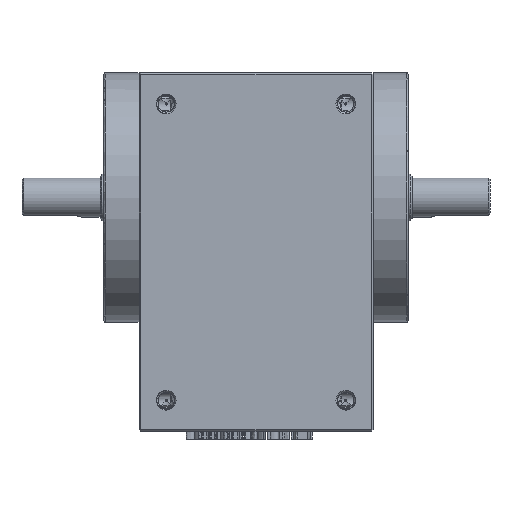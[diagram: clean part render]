
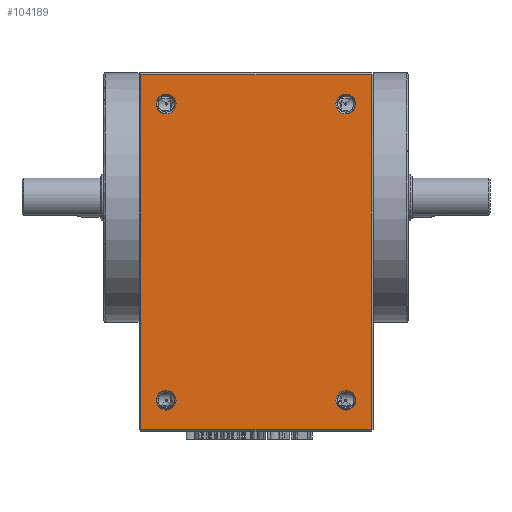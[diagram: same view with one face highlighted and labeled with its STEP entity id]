
A CAD part, front view. The second image highlights one B-rep face of the part: STEP entity #104189.
In plain terms, the highlighted planar face has unit normal (0, -1, 0).
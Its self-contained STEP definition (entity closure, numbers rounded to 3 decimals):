
#49 = DIRECTION ( 'NONE',  ( 0., -1., 0. ) ) ;
#691 = FACE_OUTER_BOUND ( 'NONE', #49533, .T. ) ;
#1646 = ORIENTED_EDGE ( 'NONE', *, *, #118115, .F. ) ;
#2790 = DIRECTION ( 'NONE',  ( 0., 0., -1. ) ) ;
#5188 = CARTESIAN_POINT ( 'NONE',  ( 23., 0., -22.525 ) ) ;
#6712 = ORIENTED_EDGE ( 'NONE', *, *, #46490, .F. ) ;
#8296 = LINE ( 'NONE', #104100, #70346 ) ;
#8600 = VERTEX_POINT ( 'NONE', #77765 ) ;
#9452 = VERTEX_POINT ( 'NONE', #5188 ) ;
#12114 = EDGE_LOOP ( 'NONE', ( #116525, #132566 ) ) ;
#12276 = CIRCLE ( 'NONE', #123251, 2.525 ) ;
#12492 = CARTESIAN_POINT ( 'NONE',  ( 23., 0., 53.475 ) ) ;
#14024 = CARTESIAN_POINT ( 'NONE',  ( -29.5, 0., 0. ) ) ;
#15746 = CARTESIAN_POINT ( 'NONE',  ( -23., 0., -20. ) ) ;
#17257 = CIRCLE ( 'NONE', #45830, 2.525 ) ;
#18082 = ORIENTED_EDGE ( 'NONE', *, *, #93464, .F. ) ;
#18822 = ORIENTED_EDGE ( 'NONE', *, *, #21091, .F. ) ;
#20648 = CARTESIAN_POINT ( 'NONE',  ( 23., 0., 56. ) ) ;
#21091 = EDGE_CURVE ( 'NONE', #68149, #103298, #17257, .T. ) ;
#21558 = AXIS2_PLACEMENT_3D ( 'NONE', #46948, #123951, #58065 ) ;
#22433 = CARTESIAN_POINT ( 'NONE',  ( 0., 0., 63.5 ) ) ;
#23027 = FACE_BOUND ( 'NONE', #77798, .T. ) ;
#25942 = DIRECTION ( 'NONE',  ( 0., 1., 0. ) ) ;
#26152 = EDGE_CURVE ( 'NONE', #56366, #9452, #99384, .T. ) ;
#26801 = DIRECTION ( 'NONE',  ( 0., 0., -1. ) ) ;
#30626 = CIRCLE ( 'NONE', #36746, 2.525 ) ;
#31736 = DIRECTION ( 'NONE',  ( 0., 0., -1. ) ) ;
#33109 = ORIENTED_EDGE ( 'NONE', *, *, #26152, .F. ) ;
#33437 = EDGE_CURVE ( 'NONE', #8600, #139664, #8296, .T. ) ;
#33518 = DIRECTION ( 'NONE',  ( 1., 0., 0. ) ) ;
#34865 = CARTESIAN_POINT ( 'NONE',  ( -23., 0., -22.525 ) ) ;
#35505 = DIRECTION ( 'NONE',  ( 0., -1., 0. ) ) ;
#36746 = AXIS2_PLACEMENT_3D ( 'NONE', #134622, #68769, #2790 ) ;
#38563 = CARTESIAN_POINT ( 'NONE',  ( 23., 0., 56. ) ) ;
#39892 = EDGE_LOOP ( 'NONE', ( #33109, #18082 ) ) ;
#40105 = CIRCLE ( 'NONE', #64486, 2.525 ) ;
#41428 = EDGE_CURVE ( 'NONE', #130122, #8600, #118017, .T. ) ;
#42284 = CARTESIAN_POINT ( 'NONE',  ( -29.5, 0., -27.5 ) ) ;
#42596 = ORIENTED_EDGE ( 'NONE', *, *, #41428, .F. ) ;
#43457 = EDGE_LOOP ( 'NONE', ( #6712, #62903 ) ) ;
#45157 = CIRCLE ( 'NONE', #21558, 2.525 ) ;
#45830 = AXIS2_PLACEMENT_3D ( 'NONE', #15746, #92776, #26801 ) ;
#46490 = EDGE_CURVE ( 'NONE', #119065, #61097, #45157, .T. ) ;
#46948 = CARTESIAN_POINT ( 'NONE',  ( -23., 0., 56. ) ) ;
#47337 = AXIS2_PLACEMENT_3D ( 'NONE', #66034, #49, #77117 ) ;
#49195 = DIRECTION ( 'NONE',  ( -1., 0., 0. ) ) ;
#49533 = EDGE_LOOP ( 'NONE', ( #86393, #1646, #90428, #42596 ) ) ;
#49569 = EDGE_CURVE ( 'NONE', #140506, #140013, #12276, .T. ) ;
#49642 = DIRECTION ( 'NONE',  ( 0., 0., -1. ) ) ;
#54326 = AXIS2_PLACEMENT_3D ( 'NONE', #101419, #35505, #112508 ) ;
#54664 = VERTEX_POINT ( 'NONE', #42284 ) ;
#56366 = VERTEX_POINT ( 'NONE', #77571 ) ;
#58065 = DIRECTION ( 'NONE',  ( 0., 0., -1. ) ) ;
#59354 = CARTESIAN_POINT ( 'NONE',  ( 23., 0., 58.525 ) ) ;
#59441 = VECTOR ( 'NONE', #33518, 1000. ) ;
#61097 = VERTEX_POINT ( 'NONE', #74497 ) ;
#62632 = CARTESIAN_POINT ( 'NONE',  ( 23., 0., -20. ) ) ;
#62903 = ORIENTED_EDGE ( 'NONE', *, *, #65510, .F. ) ;
#64486 = AXIS2_PLACEMENT_3D ( 'NONE', #38563, #115586, #49642 ) ;
#65510 = EDGE_CURVE ( 'NONE', #61097, #119065, #114544, .T. ) ;
#65834 = EDGE_CURVE ( 'NONE', #54664, #130122, #133424, .T. ) ;
#66034 = CARTESIAN_POINT ( 'NONE',  ( -23., 0., 56. ) ) ;
#68149 = VERTEX_POINT ( 'NONE', #34865 ) ;
#68769 = DIRECTION ( 'NONE',  ( 0., -1., 0. ) ) ;
#70346 = VECTOR ( 'NONE', #82537, 1000. ) ;
#71347 = VECTOR ( 'NONE', #49195, 1000. ) ;
#73549 = CARTESIAN_POINT ( 'NONE',  ( -29.5, 0., 63.5 ) ) ;
#73693 = DIRECTION ( 'NONE',  ( 0., 0., -1. ) ) ;
#74497 = CARTESIAN_POINT ( 'NONE',  ( -23., 0., 53.475 ) ) ;
#77117 = DIRECTION ( 'NONE',  ( 0., 0., -1. ) ) ;
#77571 = CARTESIAN_POINT ( 'NONE',  ( 23., 0., -17.475 ) ) ;
#77765 = CARTESIAN_POINT ( 'NONE',  ( 29.5, 0., 63.5 ) ) ;
#77798 = EDGE_LOOP ( 'NONE', ( #118152, #18822 ) ) ;
#82537 = DIRECTION ( 'NONE',  ( 0., 0., -1. ) ) ;
#85154 = FACE_BOUND ( 'NONE', #39892, .T. ) ;
#86393 = ORIENTED_EDGE ( 'NONE', *, *, #65834, .F. ) ;
#89384 = CARTESIAN_POINT ( 'NONE',  ( 29.5, 0., -27.5 ) ) ;
#90428 = ORIENTED_EDGE ( 'NONE', *, *, #33437, .F. ) ;
#90593 = DIRECTION ( 'NONE',  ( 0., 0., 1. ) ) ;
#91923 = CARTESIAN_POINT ( 'NONE',  ( 0., 0., 0. ) ) ;
#92776 = DIRECTION ( 'NONE',  ( 0., -1., 0. ) ) ;
#93464 = EDGE_CURVE ( 'NONE', #9452, #56366, #30626, .T. ) ;
#97680 = DIRECTION ( 'NONE',  ( 0., -1., 0. ) ) ;
#99384 = CIRCLE ( 'NONE', #112448, 2.525 ) ;
#101419 = CARTESIAN_POINT ( 'NONE',  ( -23., 0., -20. ) ) ;
#102926 = DIRECTION ( 'NONE',  ( 0., 0., 1. ) ) ;
#103298 = VERTEX_POINT ( 'NONE', #132015 ) ;
#104100 = CARTESIAN_POINT ( 'NONE',  ( 29.5, 0., 0. ) ) ;
#104189 = ADVANCED_FACE ( 'NONE', ( #691, #85154, #140194, #23027, #136713 ), #135658, .F. ) ;
#107280 = EDGE_CURVE ( 'NONE', #140013, #140506, #40105, .T. ) ;
#107908 = EDGE_CURVE ( 'NONE', #103298, #68149, #132974, .T. ) ;
#112448 = AXIS2_PLACEMENT_3D ( 'NONE', #62632, #139574, #73693 ) ;
#112508 = DIRECTION ( 'NONE',  ( 0., 0., -1. ) ) ;
#114544 = CIRCLE ( 'NONE', #47337, 2.525 ) ;
#115130 = CARTESIAN_POINT ( 'NONE',  ( 0., 0., -27.5 ) ) ;
#115586 = DIRECTION ( 'NONE',  ( 0., -1., 0. ) ) ;
#116525 = ORIENTED_EDGE ( 'NONE', *, *, #107280, .F. ) ;
#117745 = AXIS2_PLACEMENT_3D ( 'NONE', #91923, #25942, #102926 ) ;
#118017 = LINE ( 'NONE', #22433, #59441 ) ;
#118115 = EDGE_CURVE ( 'NONE', #139664, #54664, #129834, .T. ) ;
#118152 = ORIENTED_EDGE ( 'NONE', *, *, #107908, .F. ) ;
#119065 = VERTEX_POINT ( 'NONE', #137369 ) ;
#123251 = AXIS2_PLACEMENT_3D ( 'NONE', #20648, #97680, #31736 ) ;
#123951 = DIRECTION ( 'NONE',  ( 0., -1., 0. ) ) ;
#129834 = LINE ( 'NONE', #115130, #71347 ) ;
#130003 = VECTOR ( 'NONE', #90593, 1000. ) ;
#130122 = VERTEX_POINT ( 'NONE', #73549 ) ;
#132015 = CARTESIAN_POINT ( 'NONE',  ( -23., 0., -17.475 ) ) ;
#132566 = ORIENTED_EDGE ( 'NONE', *, *, #49569, .F. ) ;
#132974 = CIRCLE ( 'NONE', #54326, 2.525 ) ;
#133424 = LINE ( 'NONE', #14024, #130003 ) ;
#134622 = CARTESIAN_POINT ( 'NONE',  ( 23., 0., -20. ) ) ;
#135658 = PLANE ( 'NONE',  #117745 ) ;
#136713 = FACE_BOUND ( 'NONE', #43457, .T. ) ;
#137369 = CARTESIAN_POINT ( 'NONE',  ( -23., 0., 58.525 ) ) ;
#139574 = DIRECTION ( 'NONE',  ( 0., -1., 0. ) ) ;
#139664 = VERTEX_POINT ( 'NONE', #89384 ) ;
#140013 = VERTEX_POINT ( 'NONE', #59354 ) ;
#140194 = FACE_BOUND ( 'NONE', #12114, .T. ) ;
#140506 = VERTEX_POINT ( 'NONE', #12492 ) ;
